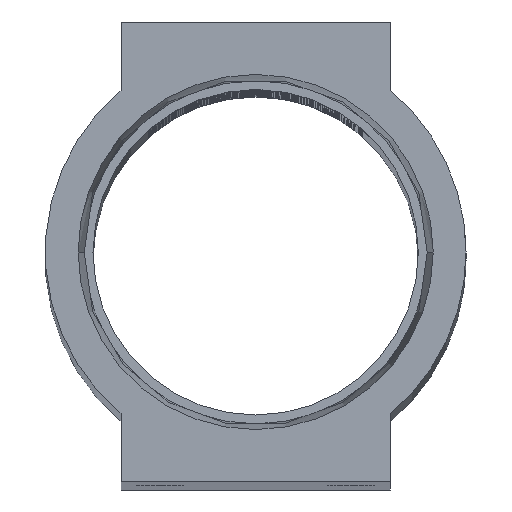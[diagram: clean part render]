
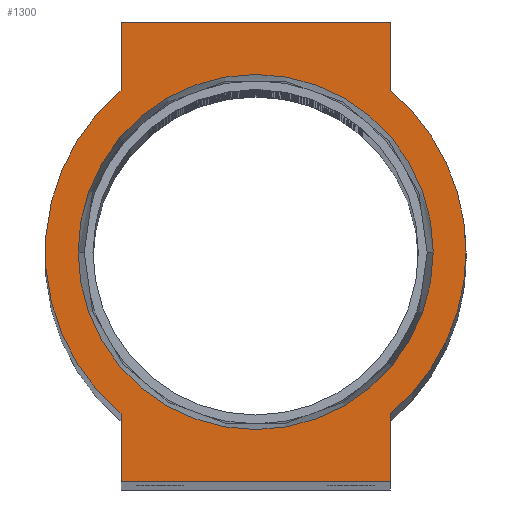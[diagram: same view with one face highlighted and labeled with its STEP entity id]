
A CAD part, top view. The second image highlights one B-rep face of the part: STEP entity #1300.
In plain terms, the highlighted planar face has unit normal (0, 0, 1).
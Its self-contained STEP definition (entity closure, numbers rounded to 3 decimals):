
#42 = CARTESIAN_POINT ( 'NONE',  ( 0., 0., 0. ) ) ;
#154 = CARTESIAN_POINT ( 'NONE',  ( -12., 20.5, 0. ) ) ;
#179 = VECTOR ( 'NONE', #13102, 1000. ) ;
#218 = CARTESIAN_POINT ( 'NONE',  ( -12., 14.407, 0. ) ) ;
#254 = VERTEX_POINT ( 'NONE', #3341 ) ;
#288 = CARTESIAN_POINT ( 'NONE',  ( 0., 0., 0. ) ) ;
#1063 = DIRECTION ( 'NONE',  ( 0., -1., 0. ) ) ;
#1213 = LINE ( 'NONE', #4197, #8574 ) ;
#1241 = DIRECTION ( 'NONE',  ( 0., -1., 0. ) ) ;
#1300 = ADVANCED_FACE ( 'NONE', ( #1758, #11625 ), #6052, .T. ) ;
#1305 = DIRECTION ( 'NONE',  ( 0., 0., 1. ) ) ;
#1526 = CIRCLE ( 'NONE', #6701, 18.75 ) ;
#1619 = CARTESIAN_POINT ( 'NONE',  ( 15.827, 0., 0. ) ) ;
#1748 = CIRCLE ( 'NONE', #8520, 18.75 ) ;
#1758 = FACE_BOUND ( 'NONE', #8121, .T. ) ;
#1894 = CARTESIAN_POINT ( 'NONE',  ( -15.827, 0., 0. ) ) ;
#1967 = EDGE_CURVE ( 'NONE', #3309, #10816, #11900, .T. ) ;
#2172 = CIRCLE ( 'NONE', #11177, 18.75 ) ;
#2203 = CARTESIAN_POINT ( 'NONE',  ( 0., 0., 0. ) ) ;
#2324 = AXIS2_PLACEMENT_3D ( 'NONE', #2973, #10374, #5012 ) ;
#2453 = ORIENTED_EDGE ( 'NONE', *, *, #8115, .T. ) ;
#2973 = CARTESIAN_POINT ( 'NONE',  ( 0., 0., 0. ) ) ;
#3309 = VERTEX_POINT ( 'NONE', #10729 ) ;
#3329 = EDGE_CURVE ( 'NONE', #4494, #10469, #9752, .T. ) ;
#3341 = CARTESIAN_POINT ( 'NONE',  ( 18.75, 0., 0. ) ) ;
#3851 = EDGE_LOOP ( 'NONE', ( #7265, #7786, #2453, #7361, #9839, #4336, #9296, #5555, #4103 ) ) ;
#3965 = VECTOR ( 'NONE', #10460, 1000. ) ;
#4041 = EDGE_CURVE ( 'NONE', #10936, #6803, #6399, .T. ) ;
#4103 = ORIENTED_EDGE ( 'NONE', *, *, #5188, .T. ) ;
#4187 = VERTEX_POINT ( 'NONE', #7117 ) ;
#4189 = EDGE_CURVE ( 'NONE', #10469, #10179, #5961, .T. ) ;
#4197 = CARTESIAN_POINT ( 'NONE',  ( -12., -20.5, 0. ) ) ;
#4330 = LINE ( 'NONE', #154, #5852 ) ;
#4336 = ORIENTED_EDGE ( 'NONE', *, *, #8113, .T. ) ;
#4405 = EDGE_CURVE ( 'NONE', #5304, #4187, #10317, .T. ) ;
#4444 = AXIS2_PLACEMENT_3D ( 'NONE', #4597, #10791, #9887 ) ;
#4447 = CARTESIAN_POINT ( 'NONE',  ( -12., -20.5, 0. ) ) ;
#4459 = DIRECTION ( 'NONE',  ( 1., 0., 0. ) ) ;
#4494 = VERTEX_POINT ( 'NONE', #6272 ) ;
#4597 = CARTESIAN_POINT ( 'NONE',  ( 0., 0., 0. ) ) ;
#5012 = DIRECTION ( 'NONE',  ( 1., 0., 0. ) ) ;
#5188 = EDGE_CURVE ( 'NONE', #254, #4494, #2172, .T. ) ;
#5304 = VERTEX_POINT ( 'NONE', #9267 ) ;
#5555 = ORIENTED_EDGE ( 'NONE', *, *, #6629, .T. ) ;
#5638 = DIRECTION ( 'NONE',  ( 0., 0., 1. ) ) ;
#5651 = DIRECTION ( 'NONE',  ( 0., 0., 1. ) ) ;
#5798 = CIRCLE ( 'NONE', #4444, 15.827 ) ;
#5852 = VECTOR ( 'NONE', #1063, 1000. ) ;
#5961 = LINE ( 'NONE', #10350, #9827 ) ;
#5966 = VERTEX_POINT ( 'NONE', #218 ) ;
#6052 = PLANE ( 'NONE',  #2324 ) ;
#6241 = EDGE_CURVE ( 'NONE', #6803, #10936, #5798, .T. ) ;
#6272 = CARTESIAN_POINT ( 'NONE',  ( 12., 14.407, 0. ) ) ;
#6399 = CIRCLE ( 'NONE', #12651, 15.827 ) ;
#6441 = DIRECTION ( 'NONE',  ( 1., 0., 0. ) ) ;
#6617 = EDGE_CURVE ( 'NONE', #5966, #3309, #1526, .T. ) ;
#6629 = EDGE_CURVE ( 'NONE', #4187, #254, #1748, .T. ) ;
#6701 = AXIS2_PLACEMENT_3D ( 'NONE', #11990, #12058, #8693 ) ;
#6803 = VERTEX_POINT ( 'NONE', #1619 ) ;
#7117 = CARTESIAN_POINT ( 'NONE',  ( 12., -14.407, 0. ) ) ;
#7265 = ORIENTED_EDGE ( 'NONE', *, *, #3329, .T. ) ;
#7361 = ORIENTED_EDGE ( 'NONE', *, *, #6617, .T. ) ;
#7675 = DIRECTION ( 'NONE',  ( 1., 0., 0. ) ) ;
#7786 = ORIENTED_EDGE ( 'NONE', *, *, #4189, .T. ) ;
#7971 = DIRECTION ( 'NONE',  ( -1., 0., 0. ) ) ;
#8113 = EDGE_CURVE ( 'NONE', #10816, #5304, #1213, .T. ) ;
#8115 = EDGE_CURVE ( 'NONE', #10179, #5966, #4330, .T. ) ;
#8121 = EDGE_LOOP ( 'NONE', ( #8734, #9264 ) ) ;
#8422 = VECTOR ( 'NONE', #1241, 1000. ) ;
#8520 = AXIS2_PLACEMENT_3D ( 'NONE', #2203, #5638, #12888 ) ;
#8574 = VECTOR ( 'NONE', #6441, 1000. ) ;
#8693 = DIRECTION ( 'NONE',  ( 1., 0., 0. ) ) ;
#8734 = ORIENTED_EDGE ( 'NONE', *, *, #6241, .F. ) ;
#9264 = ORIENTED_EDGE ( 'NONE', *, *, #4041, .F. ) ;
#9267 = CARTESIAN_POINT ( 'NONE',  ( 12., -20.5, 0. ) ) ;
#9296 = ORIENTED_EDGE ( 'NONE', *, *, #4405, .T. ) ;
#9752 = LINE ( 'NONE', #11919, #179 ) ;
#9827 = VECTOR ( 'NONE', #7971, 1000. ) ;
#9839 = ORIENTED_EDGE ( 'NONE', *, *, #1967, .T. ) ;
#9887 = DIRECTION ( 'NONE',  ( 1., 0., 0. ) ) ;
#10179 = VERTEX_POINT ( 'NONE', #10718 ) ;
#10317 = LINE ( 'NONE', #11441, #3965 ) ;
#10350 = CARTESIAN_POINT ( 'NONE',  ( -12., 20.5, 0. ) ) ;
#10374 = DIRECTION ( 'NONE',  ( 0., 0., 1. ) ) ;
#10460 = DIRECTION ( 'NONE',  ( 0., 1., 0. ) ) ;
#10469 = VERTEX_POINT ( 'NONE', #10704 ) ;
#10704 = CARTESIAN_POINT ( 'NONE',  ( 12., 20.5, 0. ) ) ;
#10718 = CARTESIAN_POINT ( 'NONE',  ( -12., 20.5, 0. ) ) ;
#10729 = CARTESIAN_POINT ( 'NONE',  ( -12., -14.407, 0. ) ) ;
#10791 = DIRECTION ( 'NONE',  ( 0., 0., 1. ) ) ;
#10816 = VERTEX_POINT ( 'NONE', #4447 ) ;
#10918 = CARTESIAN_POINT ( 'NONE',  ( -12., -20.5, 0. ) ) ;
#10936 = VERTEX_POINT ( 'NONE', #1894 ) ;
#11177 = AXIS2_PLACEMENT_3D ( 'NONE', #288, #5651, #4459 ) ;
#11441 = CARTESIAN_POINT ( 'NONE',  ( 12., -20.5, 0. ) ) ;
#11625 = FACE_OUTER_BOUND ( 'NONE', #3851, .T. ) ;
#11900 = LINE ( 'NONE', #10918, #8422 ) ;
#11919 = CARTESIAN_POINT ( 'NONE',  ( 12., 20.5, 0. ) ) ;
#11990 = CARTESIAN_POINT ( 'NONE',  ( 0., 0., 0. ) ) ;
#12058 = DIRECTION ( 'NONE',  ( 0., 0., 1. ) ) ;
#12651 = AXIS2_PLACEMENT_3D ( 'NONE', #42, #1305, #7675 ) ;
#12888 = DIRECTION ( 'NONE',  ( 1., 0., 0. ) ) ;
#13102 = DIRECTION ( 'NONE',  ( 0., 1., 0. ) ) ;
